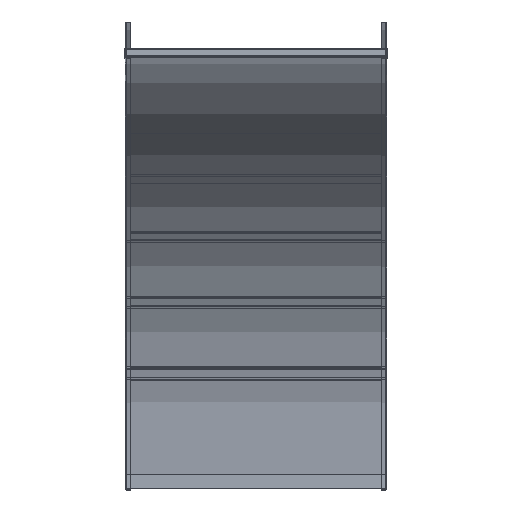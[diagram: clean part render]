
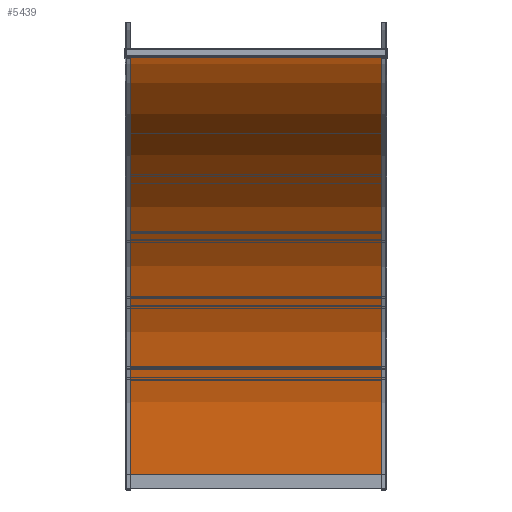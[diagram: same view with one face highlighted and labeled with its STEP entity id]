
A CAD part, top view. The second image highlights one B-rep face of the part: STEP entity #5439.
In plain terms, the highlighted cylindrical face has radius 1221.23 mm (diameter 2442.46 mm), a partial arc.
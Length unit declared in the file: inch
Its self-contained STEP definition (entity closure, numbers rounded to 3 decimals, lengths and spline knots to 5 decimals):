
#5273=DIRECTION('',(-1.,0.,0.));
#5274=VECTOR('',#5273,29.875);
#5275=CARTESIAN_POINT('',(14.9375,0.,0.));
#5276=LINE('',#5275,#5274);
#5277=CARTESIAN_POINT('',(14.9375,48.08,0.));
#5278=DIRECTION('',(-1.,0.,0.));
#5279=DIRECTION('',(0.,-1.,0.));
#5280=AXIS2_PLACEMENT_3D('',#5277,#5278,#5279);
#5303=CARTESIAN_POINT('',(-14.9375,48.08,0.));
#5304=DIRECTION('',(-1.,0.,0.));
#5305=DIRECTION('',(0.,-1.,0.));
#5306=AXIS2_PLACEMENT_3D('',#5303,#5304,#5305);
#5329=DIRECTION('',(-1.,0.,0.));
#5330=VECTOR('',#5329,29.875);
#5331=CARTESIAN_POINT('',(14.9375,48.08,48.08));
#5332=LINE('',#5331,#5330);
#5377=CARTESIAN_POINT('',(14.9375,0.,0.));
#5379=VERTEX_POINT('',#5377);
#5383=CARTESIAN_POINT('',(-14.9375,0.,0.));
#5384=VERTEX_POINT('',#5383);
#5393=CARTESIAN_POINT('',(14.9375,48.08,48.08));
#5394=VERTEX_POINT('',#5393);
#5397=CARTESIAN_POINT('',(-14.9375,48.08,48.08));
#5398=VERTEX_POINT('',#5397);
#5425=CARTESIAN_POINT('',(14.9375,48.08,0.));
#5426=DIRECTION('',(-1.,0.,0.));
#5427=DIRECTION('',(0.,0.,1.));
#5428=AXIS2_PLACEMENT_3D('',#5425,#5426,#5427);
#5429=CYLINDRICAL_SURFACE('',#5428,48.08);
#5431=ORIENTED_EDGE('',*,*,#5430,.T.);
#5433=ORIENTED_EDGE('',*,*,#5432,.T.);
#5435=ORIENTED_EDGE('',*,*,#5434,.F.);
#5436=ORIENTED_EDGE('',*,*,#5414,.F.);
#5437=EDGE_LOOP('',(#5431,#5433,#5435,#5436));
#5438=FACE_OUTER_BOUND('',#5437,.F.);
#5439=ADVANCED_FACE('',(#5438),#5429,.F.);
#5281=CIRCLE('',#5280,48.08);
#5307=CIRCLE('',#5306,48.08);
#5414=EDGE_CURVE('',#5379,#5384,#5276,.T.);
#5430=EDGE_CURVE('',#5379,#5394,#5281,.T.);
#5432=EDGE_CURVE('',#5394,#5398,#5332,.T.);
#5434=EDGE_CURVE('',#5384,#5398,#5307,.T.);
